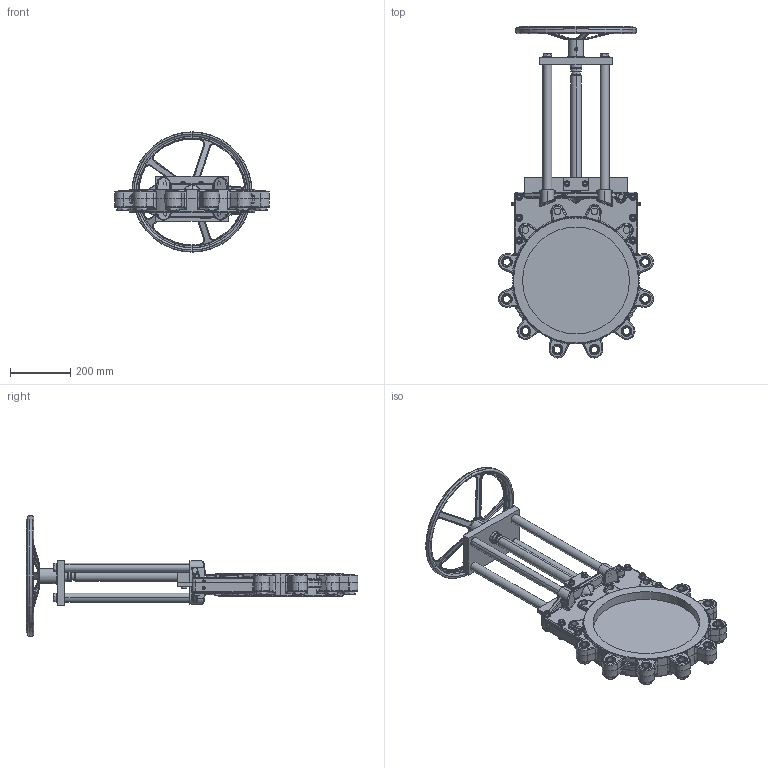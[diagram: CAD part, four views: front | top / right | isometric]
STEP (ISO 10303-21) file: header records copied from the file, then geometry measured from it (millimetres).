
FILE_DESCRIPTION (( 'STEP AP214' ), '1' );
FILE_NAME ('VLA DN 0350.STEP', '2022-09-20T06:58:35', ( '' ), ( '' ), 'SwSTEP 2.0', 'SolidWorks 2021', '' );
FILE_SCHEMA (( 'AUTOMOTIVE_DESIGN' ));
Length unit declared in the file: millimetre
Products named in the file (1): VLA DN 0350
Bounding box: 515.97 x 1104.47 x 400 mm (x, y, z)
Volume: 11723296.6 mm3; surface area: 1438877 mm2
Topology: 1 solids, 38 shells, 2617 faces, 6173 edges, 3594 vertices
Faces by surface type: plane 790, cylinder 707, bspline 459, cone 445, torus 202, sphere 14
Entity records: 126109 total; most frequent: CARTESIAN_POINT 41328, ORIENTED_EDGE 12052, DIRECTION 11319, EDGE_CURVE 6026, AXIS2_PLACEMENT_3D 4665, VERTEX_POINT 3594, EDGE_LOOP 2816, UNCERTAINTY_MEASURE_WITH_UNIT 2618
